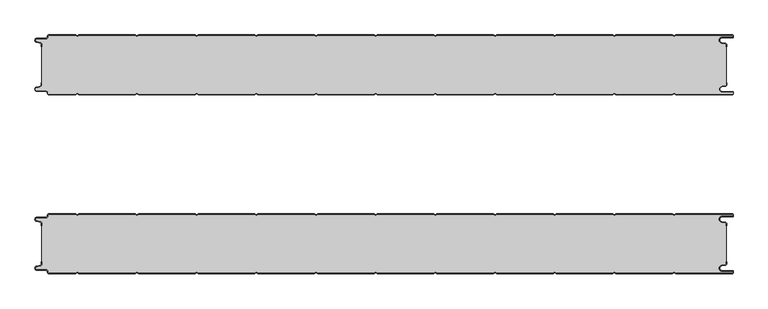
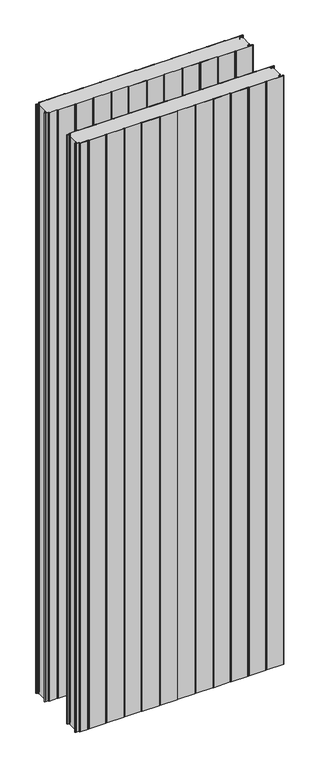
"""IFC4 building model written with IfcOpenShell, lengths in millimetres: plate geometry, Curtain-Panel_Doble-Panel-Acústico_Perfil-frigorífico-PM1 : ACH_Doble-Panel-Acústico_PM1_100-200-100."""

from ifc_helpers import new_model, si_unit, point, frame_2d, origin, origin_with_axes, place, context, project, spatial, polyline, circle_curve, trimmed, segment, composite_curve, outline, extrude, source, transform, mapped, element, save


def plate_c1fa482e(model_context):
    return source(origin(), model_context, "Body", "SweptSolid", [
        extrude(outline(composite_curve([segment(trimmed(circle_curve(frame_2d((-577.0, -315.878557)), 2.0), [point((-575.0, -315.878557))], [point((-576.5500978, -313.9298169))], True, "CARTESIAN"), True, "CONTINUOUS"), segment(polyline([(-576.5500978, -313.9298169), (-582.7098239, -312.507732)]), True, "CONTINUOUS"), segment(trimmed(circle_curve(frame_2d((-581.9, -309.0)), 3.6), [point((-582.7098239, -312.507732))], [point((-581.9, -305.4))], False, "CARTESIAN"), True, "CONTINUOUS"), segment(polyline([(-581.9, -305.4), (-566.4, -305.4)]), True, "CONTINUOUS"), segment(trimmed(circle_curve(frame_2d((-566.4, -303.4)), 2.0), [point((-566.4, -305.4))], [point((-564.4, -303.4))], True, "CARTESIAN"), True, "CONTINUOUS"), segment(polyline([(-564.4, -303.4), (-564.4, -302.0)]), True, "CONTINUOUS"), segment(trimmed(circle_curve(frame_2d((-562.4, -302.0)), 2.0), [point((-564.4, -302.0))], [point((-562.4, -300.0))], False, "CARTESIAN"), True, "CONTINUOUS"), segment(polyline([(-562.4, -300.0), (-517.0999995, -300.0), (-514.4, -301.5588455), (-511.7000005, -300.0), (-417.0999995, -300.0), (-414.4, -301.5588455), (-411.7000005, -300.0), (-317.0999995, -300.0), (-314.4, -301.5588455), (-311.7000005, -300.0), (-217.0999995, -300.0), (-214.4, -301.5588455), (-211.7000005, -300.0), (-117.0999995, -300.0), (-114.4, -301.5588455), (-111.7000005, -300.0), (-17.0999995, -300.0), (-14.4, -301.5588455), (-11.7000005, -300.0), (82.9000005, -300.0), (85.6, -301.5588455), (88.2999995, -300.0), (182.9000005, -300.0), (185.6, -301.5588455), (188.2999995, -300.0), (282.9000005, -300.0), (285.6, -301.5588455), (288.2999995, -300.0), (382.9000005, -300.0), (385.6, -301.5588455), (388.2999995, -300.0), (482.9000005, -300.0), (485.6, -301.5588455), (488.2999995, -300.0), (583.1, -300.0)]), True, "CONTINUOUS"), segment(trimmed(circle_curve(frame_2d((583.1, -302.5)), 2.5), [point((583.1, -300.0))], [point((584.6, -300.5))], False, "CARTESIAN"), True, "CONTINUOUS"), segment(polyline([(584.6, -300.5), (584.6, -301.7)]), True, "CONTINUOUS"), segment(trimmed(circle_curve(frame_2d((583.1, -302.5)), 1.7), [point((584.6, -301.7))], [point((583.1, -300.8))], True, "CARTESIAN"), True, "CONTINUOUS"), segment(polyline([(583.1, -300.8), (488.5143588, -300.8), (485.6, -302.482606), (482.6856412, -300.8), (388.5143588, -300.8), (385.6, -302.482606), (382.6856412, -300.8), (288.5143588, -300.8), (285.6, -302.482606), (282.6856412, -300.8), (188.5143588, -300.8), (185.6, -302.482606), (182.6856412, -300.8), (88.5143588, -300.8), (85.6, -302.482606), (82.6856412, -300.8), (-11.4856412, -300.8), (-14.4, -302.482606), (-17.3143588, -300.8), (-111.4856412, -300.8), (-114.4, -302.482606), (-117.3143588, -300.8), (-211.4856412, -300.8), (-214.4, -302.482606), (-217.3143588, -300.8), (-311.4856412, -300.8), (-314.4, -302.482606), (-317.3143588, -300.8), (-411.4856412, -300.8), (-414.4, -302.482606), (-417.3143588, -300.8), (-511.4856412, -300.8), (-514.4, -302.482606), (-517.3143588, -300.8), (-562.4, -300.8)]), True, "CONTINUOUS"), segment(trimmed(circle_curve(frame_2d((-562.4, -302.0)), 1.2), [point((-562.4, -300.8))], [point((-563.6, -302.0))], True, "CARTESIAN"), True, "CONTINUOUS"), segment(polyline([(-563.6, -302.0), (-563.6, -303.4)]), True, "CONTINUOUS"), segment(trimmed(circle_curve(frame_2d((-566.4, -303.4)), 2.8), [point((-563.6, -303.4))], [point((-566.4, -306.2))], False, "CARTESIAN"), True, "CONTINUOUS"), segment(polyline([(-566.4, -306.2), (-581.9, -306.2)]), True, "CONTINUOUS"), segment(trimmed(circle_curve(frame_2d((-581.9, -309.0)), 2.8), [point((-581.9, -306.2))], [point((-582.529863, -311.7282362))], True, "CARTESIAN"), True, "CONTINUOUS"), segment(polyline([(-582.529863, -311.7282362), (-576.370137, -313.150321)]), True, "CONTINUOUS"), segment(trimmed(circle_curve(frame_2d((-577.0, -315.878557)), 2.8), [point((-576.370137, -313.150321))], [point((-574.2, -315.878557))], False, "CARTESIAN"), True, "CONTINUOUS"), segment(polyline([(-574.2, -315.878557), (-574.2, -320.0), (-575.0, -320.0), (-575.0, -315.878557)]), True, "CONTINUOUS")], self_intersect=False)), origin_with_axes(), (0.0, 0.0, 1.0), 3500.0),
        extrude(outline(composite_curve([segment(polyline([(583.1, -305.0), (566.1, -305.0)]), True, "CONTINUOUS"), segment(trimmed(circle_curve(frame_2d((566.1, -309.0)), 4.0), [point((566.1, -305.0))], [point((565.405407, -312.939231))], True, "CARTESIAN"), True, "CONTINUOUS"), segment(polyline([(565.405407, -312.939231), (571.8514855, -314.0758491)]), True, "CONTINUOUS"), segment(trimmed(circle_curve(frame_2d((571.4, -316.6363492)), 2.6), [point((571.8514855, -314.0758491))], [point((574.0, -316.6363492))], False, "CARTESIAN"), True, "CONTINUOUS"), segment(polyline([(574.0, -316.6363492), (574.0, -320.0), (573.2, -320.0), (573.2, -316.6363492)]), True, "CONTINUOUS"), segment(trimmed(circle_curve(frame_2d((571.4, -316.6363492)), 1.8), [point((573.2, -316.6363492))], [point((571.7125669, -314.8636953))], True, "CARTESIAN"), True, "CONTINUOUS"), segment(polyline([(571.7125669, -314.8636953), (565.2664884, -313.7270772)]), True, "CONTINUOUS"), segment(trimmed(circle_curve(frame_2d((566.1, -309.0)), 4.8), [point((565.2664884, -313.7270772))], [point((566.1, -304.2))], False, "CARTESIAN"), True, "CONTINUOUS"), segment(polyline([(566.1, -304.2), (583.1, -304.2)]), True, "CONTINUOUS"), segment(trimmed(circle_curve(frame_2d((583.1, -302.5)), 1.7), [point((583.1, -304.2))], [point((584.6, -303.3))], True, "CARTESIAN"), True, "CONTINUOUS"), segment(polyline([(584.6, -303.3), (584.6, -304.5)]), True, "CONTINUOUS"), segment(trimmed(circle_curve(frame_2d((583.1, -302.5)), 2.5), [point((584.6, -304.5))], [point((583.1, -305.0))], False, "CARTESIAN"), True, "CONTINUOUS")], self_intersect=False)), origin_with_axes(), (0.0, 0.0, 1.0), 3500.0),
        extrude(outline(composite_curve([segment(polyline([(-575.0, -384.121443), (-575.0, -380.0), (-574.2, -380.0), (-574.2, -384.121443)]), True, "CONTINUOUS"), segment(trimmed(circle_curve(frame_2d((-577.0, -384.121443)), 2.8), [point((-574.2, -384.121443))], [point((-576.370137, -386.8496792))], False, "CARTESIAN"), True, "CONTINUOUS"), segment(polyline([(-576.370137, -386.8496792), (-582.529863, -388.271764)]), True, "CONTINUOUS"), segment(trimmed(circle_curve(frame_2d((-581.9, -391.0)), 2.8), [point((-582.529863, -388.271764))], [point((-581.9, -393.8))], True, "CARTESIAN"), True, "CONTINUOUS"), segment(polyline([(-581.9, -393.8), (-566.4, -393.8)]), True, "CONTINUOUS"), segment(trimmed(circle_curve(frame_2d((-566.4, -396.6)), 2.8), [point((-566.4, -393.8))], [point((-563.6, -396.6))], False, "CARTESIAN"), True, "CONTINUOUS"), segment(polyline([(-563.6, -396.6), (-563.6, -398.0)]), True, "CONTINUOUS"), segment(trimmed(circle_curve(frame_2d((-562.4, -398.0)), 1.2), [point((-563.6, -398.0))], [point((-562.4, -399.2))], True, "CARTESIAN"), True, "CONTINUOUS"), segment(polyline([(-562.4, -399.2), (-517.3143588, -399.2), (-514.4, -397.517394), (-511.4856412, -399.2), (-417.3143588, -399.2), (-414.4, -397.517394), (-411.4856412, -399.2), (-317.3143588, -399.2), (-314.4, -397.517394), (-311.4856412, -399.2), (-217.3143588, -399.2), (-214.4, -397.517394), (-211.4856412, -399.2), (-117.3143588, -399.2), (-114.4, -397.517394), (-111.4856412, -399.2), (-17.3143588, -399.2), (-14.4, -397.517394), (-11.4856412, -399.2), (82.6856412, -399.2), (85.6, -397.517394), (88.5143588, -399.2), (182.6856412, -399.2), (185.6, -397.517394), (188.5143588, -399.2), (282.6856412, -399.2), (285.6, -397.517394), (288.5143588, -399.2), (382.6856412, -399.2), (385.6, -397.517394), (388.5143588, -399.2), (482.6856412, -399.2), (485.6, -397.517394), (488.5143588, -399.2), (583.1, -399.2)]), True, "CONTINUOUS"), segment(trimmed(circle_curve(frame_2d((583.1, -397.5)), 1.7), [point((583.1, -399.2))], [point((584.6, -398.3))], True, "CARTESIAN"), True, "CONTINUOUS"), segment(polyline([(584.6, -398.3), (584.6, -399.5)]), True, "CONTINUOUS"), segment(trimmed(circle_curve(frame_2d((583.1, -397.5)), 2.5), [point((584.6, -399.5))], [point((583.1, -400.0))], False, "CARTESIAN"), True, "CONTINUOUS"), segment(polyline([(583.1, -400.0), (488.2999995, -400.0), (485.6, -398.4411545), (482.9000005, -400.0), (388.2999995, -400.0), (385.6, -398.4411545), (382.9000005, -400.0), (288.2999995, -400.0), (285.6, -398.4411545), (282.9000005, -400.0), (188.2999995, -400.0), (185.6, -398.4411545), (182.9000005, -400.0), (88.2999995, -400.0), (85.6, -398.4411545), (82.9000005, -400.0), (-11.7000005, -400.0), (-14.4, -398.4411545), (-17.0999995, -400.0), (-111.7000005, -400.0), (-114.4, -398.4411545), (-117.0999995, -400.0), (-211.7000005, -400.0), (-214.4, -398.4411545), (-217.0999995, -400.0), (-311.7000005, -400.0), (-314.4, -398.4411545), (-317.0999995, -400.0), (-411.7000005, -400.0), (-414.4, -398.4411545), (-417.0999995, -400.0), (-511.7000005, -400.0), (-514.4, -398.4411545), (-517.0999995, -400.0), (-562.4, -400.0)]), True, "CONTINUOUS"), segment(trimmed(circle_curve(frame_2d((-562.4, -398.0)), 2.0), [point((-562.4, -400.0))], [point((-564.4, -398.0))], False, "CARTESIAN"), True, "CONTINUOUS"), segment(polyline([(-564.4, -398.0), (-564.4, -396.6)]), True, "CONTINUOUS"), segment(trimmed(circle_curve(frame_2d((-566.4, -396.6)), 2.0), [point((-564.4, -396.6))], [point((-566.4, -394.6))], True, "CARTESIAN"), True, "CONTINUOUS"), segment(polyline([(-566.4, -394.6), (-581.9, -394.6)]), True, "CONTINUOUS"), segment(trimmed(circle_curve(frame_2d((-581.9, -391.0)), 3.6), [point((-581.9, -394.6))], [point((-582.7098239, -387.4922678))], False, "CARTESIAN"), True, "CONTINUOUS"), segment(polyline([(-582.7098239, -387.4922678), (-576.5500979, -386.070183)]), True, "CONTINUOUS"), segment(trimmed(circle_curve(frame_2d((-577.0, -384.121443)), 2.0), [point((-576.5500979, -386.070183))], [point((-575.0, -384.121443))], True, "CARTESIAN"), True, "CONTINUOUS")], self_intersect=False)), origin_with_axes(), (0.0, 0.0, 1.0), 3500.0),
        extrude(outline(composite_curve([segment(polyline([(583.1, -395.8), (566.1, -395.8)]), True, "CONTINUOUS"), segment(trimmed(circle_curve(frame_2d((566.1, -391.0)), 4.8), [point((566.1, -395.8))], [point((565.2664884, -386.2729229))], False, "CARTESIAN"), True, "CONTINUOUS"), segment(polyline([(565.2664884, -386.2729229), (571.7125669, -385.1363047)]), True, "CONTINUOUS"), segment(trimmed(circle_curve(frame_2d((571.4, -383.3636508)), 1.8), [point((571.7125669, -385.1363047))], [point((573.2, -383.3636508))], True, "CARTESIAN"), True, "CONTINUOUS"), segment(polyline([(573.2, -383.3636508), (573.2, -380.0), (574.0, -380.0), (574.0, -383.3636508)]), True, "CONTINUOUS"), segment(trimmed(circle_curve(frame_2d((571.4, -383.3636508)), 2.6), [point((574.0, -383.3636508))], [point((571.8514855, -385.9241509))], False, "CARTESIAN"), True, "CONTINUOUS"), segment(polyline([(571.8514855, -385.9241509), (565.405407, -387.060769)]), True, "CONTINUOUS"), segment(trimmed(circle_curve(frame_2d((566.1, -391.0)), 4.0), [point((565.405407, -387.060769))], [point((566.1, -395.0))], True, "CARTESIAN"), True, "CONTINUOUS"), segment(polyline([(566.1, -395.0), (583.1, -395.0)]), True, "CONTINUOUS"), segment(trimmed(circle_curve(frame_2d((583.1, -397.5)), 2.5), [point((583.1, -395.0))], [point((584.6, -395.5))], False, "CARTESIAN"), True, "CONTINUOUS"), segment(polyline([(584.6, -395.5), (584.6, -396.7)]), True, "CONTINUOUS"), segment(trimmed(circle_curve(frame_2d((583.1, -397.5)), 1.7), [point((584.6, -396.7))], [point((583.1, -395.8))], True, "CARTESIAN"), True, "CONTINUOUS")], self_intersect=False)), origin_with_axes(), (0.0, 0.0, 1.0), 3500.0),
        extrude(outline(composite_curve([segment(polyline([(-574.2, -384.1214426), (-574.2, -315.8785573)]), True, "CONTINUOUS"), segment(trimmed(circle_curve(frame_2d((-577.0, -315.8785573)), 2.8), [point((-574.2, -315.8785573))], [point((-576.370137, -313.1503212))], True, "CARTESIAN"), True, "CONTINUOUS"), segment(polyline([(-576.370137, -313.1503212), (-582.5298631, -311.7282362)]), True, "CONTINUOUS"), segment(trimmed(circle_curve(frame_2d((-581.9, -309.0)), 2.8), [point((-582.5298631, -311.7282362))], [point((-581.9, -306.2))], False, "CARTESIAN"), True, "CONTINUOUS"), segment(polyline([(-581.9, -306.2), (-566.4000001, -306.2)]), True, "CONTINUOUS"), segment(trimmed(circle_curve(frame_2d((-566.4000001, -303.4)), 2.8), [point((-566.4000001, -306.2))], [point((-563.6000001, -303.4))], True, "CARTESIAN"), True, "CONTINUOUS"), segment(polyline([(-563.6000001, -303.4), (-563.6000001, -302.0)]), True, "CONTINUOUS"), segment(trimmed(circle_curve(frame_2d((-562.4000001, -302.0)), 1.2), [point((-563.6000001, -302.0))], [point((-562.4000001, -300.8))], False, "CARTESIAN"), True, "CONTINUOUS"), segment(polyline([(-562.4000001, -300.8), (-517.3143589, -300.8), (-514.4000001, -302.482606), (-511.4856412, -300.8), (-417.3143589, -300.8), (-414.4000001, -302.482606), (-411.4856412, -300.8), (-317.3143589, -300.8), (-314.4000001, -302.482606), (-311.4856412, -300.8), (-217.3143589, -300.8), (-214.4000001, -302.482606), (-211.4856412, -300.8), (-117.3143589, -300.8), (-114.4000001, -302.482606), (-111.4856412, -300.8), (-17.3143589, -300.8), (-14.4000001, -302.482606), (-11.4856412, -300.8), (82.6856411, -300.8), (85.5999999, -302.482606), (88.5143588, -300.8), (182.6856411, -300.8), (185.5999999, -302.482606), (188.5143588, -300.8), (282.6856411, -300.8), (285.5999999, -302.482606), (288.5143588, -300.8), (382.6856411, -300.8), (385.5999999, -302.482606), (388.5143588, -300.8), (482.6856411, -300.8), (485.6, -302.482606), (488.5143588, -300.8), (583.1, -300.8)]), True, "CONTINUOUS"), segment(trimmed(circle_curve(frame_2d((583.1, -302.5)), 1.7), [point((583.1, -300.8))], [point((584.6, -301.7000001))], False, "CARTESIAN"), True, "CONTINUOUS"), segment(polyline([(584.6, -301.7000001), (584.6, -303.2999999)]), True, "CONTINUOUS"), segment(trimmed(circle_curve(frame_2d((583.1, -302.5)), 1.7), [point((584.6, -303.2999999))], [point((583.1, -304.2))], False, "CARTESIAN"), True, "CONTINUOUS"), segment(polyline([(583.1, -304.2), (566.1, -304.2)]), True, "CONTINUOUS"), segment(trimmed(circle_curve(frame_2d((566.1, -309.0)), 4.8), [point((566.1, -304.2))], [point((565.2664883, -313.7270771))], True, "CARTESIAN"), True, "CONTINUOUS"), segment(polyline([(565.2664883, -313.7270771), (571.7125668, -314.8636953)]), True, "CONTINUOUS"), segment(trimmed(circle_curve(frame_2d((571.4, -316.6363492)), 1.8), [point((571.7125668, -314.8636953))], [point((573.2, -316.6363492))], False, "CARTESIAN"), True, "CONTINUOUS"), segment(polyline([(573.2, -316.6363492), (573.2, -383.3636508)]), True, "CONTINUOUS"), segment(trimmed(circle_curve(frame_2d((571.4, -383.3636508)), 1.8), [point((573.2, -383.3636508))], [point((571.7125668, -385.1363047))], False, "CARTESIAN"), True, "CONTINUOUS"), segment(polyline([(571.7125668, -385.1363047), (565.2664883, -386.2729229)]), True, "CONTINUOUS"), segment(trimmed(circle_curve(frame_2d((566.1, -391.0)), 4.8), [point((565.2664883, -386.2729229))], [point((566.1, -395.8))], True, "CARTESIAN"), True, "CONTINUOUS"), segment(polyline([(566.1, -395.8), (583.1, -395.8)]), True, "CONTINUOUS"), segment(trimmed(circle_curve(frame_2d((583.1, -397.5)), 1.7), [point((583.1, -395.8))], [point((584.6, -396.7000001))], False, "CARTESIAN"), True, "CONTINUOUS"), segment(polyline([(584.6, -396.7000001), (584.6, -398.2999999)]), True, "CONTINUOUS"), segment(trimmed(circle_curve(frame_2d((583.1, -397.5)), 1.7), [point((584.6, -398.2999999))], [point((583.1, -399.2))], False, "CARTESIAN"), True, "CONTINUOUS"), segment(polyline([(583.1, -399.2), (488.5143588, -399.2), (485.6, -397.517394), (482.6856411, -399.2), (388.5143588, -399.2), (385.5999999, -397.517394), (382.6856411, -399.2), (288.5143588, -399.2), (285.5999999, -397.517394), (282.6856411, -399.2), (188.5143588, -399.2), (185.5999999, -397.517394), (182.6856411, -399.2), (88.5143588, -399.2), (85.5999999, -397.517394), (82.6856411, -399.2), (-11.4856412, -399.2), (-14.4000001, -397.517394), (-17.3143589, -399.2), (-111.4856412, -399.2), (-114.4000001, -397.517394), (-117.3143589, -399.2), (-211.4856412, -399.2), (-214.4000001, -397.517394), (-217.3143589, -399.2), (-311.4856412, -399.2), (-314.4000001, -397.517394), (-317.3143589, -399.2), (-411.4856412, -399.2), (-414.4000001, -397.517394), (-417.3143589, -399.2), (-511.4856412, -399.2), (-514.4000001, -397.517394), (-517.3143589, -399.2), (-562.4000001, -399.2)]), True, "CONTINUOUS"), segment(trimmed(circle_curve(frame_2d((-562.4000001, -398.0)), 1.2), [point((-562.4000001, -399.2))], [point((-563.6000001, -398.0))], False, "CARTESIAN"), True, "CONTINUOUS"), segment(polyline([(-563.6000001, -398.0), (-563.6000001, -396.6)]), True, "CONTINUOUS"), segment(trimmed(circle_curve(frame_2d((-566.4000001, -396.6)), 2.8), [point((-563.6000001, -396.6))], [point((-566.4000001, -393.8))], True, "CARTESIAN"), True, "CONTINUOUS"), segment(polyline([(-566.4000001, -393.8), (-581.9, -393.8)]), True, "CONTINUOUS"), segment(trimmed(circle_curve(frame_2d((-581.9, -391.0)), 2.8), [point((-581.9, -393.8))], [point((-582.5298631, -388.2717638))], False, "CARTESIAN"), True, "CONTINUOUS"), segment(polyline([(-582.5298631, -388.2717638), (-576.370137, -386.8496788)]), True, "CONTINUOUS"), segment(trimmed(circle_curve(frame_2d((-577.0, -384.1214426)), 2.8), [point((-576.370137, -386.8496788))], [point((-574.2, -384.1214426))], True, "CARTESIAN"), True, "CONTINUOUS")], self_intersect=False)), origin_with_axes(), (0.0, 0.0, 1.0), 3500.0),
        extrude(outline(composite_curve([segment(trimmed(circle_curve(frame_2d((-577.0, -15.878557)), 2.0), [point((-575.0, -15.878557))], [point((-576.5500978, -13.9298169))], True, "CARTESIAN"), True, "CONTINUOUS"), segment(polyline([(-576.5500978, -13.9298169), (-582.7098239, -12.507732)]), True, "CONTINUOUS"), segment(trimmed(circle_curve(frame_2d((-581.9, -9.0)), 3.6), [point((-582.7098239, -12.507732))], [point((-581.9, -5.4))], False, "CARTESIAN"), True, "CONTINUOUS"), segment(polyline([(-581.9, -5.4), (-566.4, -5.4)]), True, "CONTINUOUS"), segment(trimmed(circle_curve(frame_2d((-566.4, -3.4)), 2.0), [point((-566.4, -5.4))], [point((-564.4, -3.4))], True, "CARTESIAN"), True, "CONTINUOUS"), segment(polyline([(-564.4, -3.4), (-564.4, -2.0)]), True, "CONTINUOUS"), segment(trimmed(circle_curve(frame_2d((-562.4, -2.0)), 2.0), [point((-564.4, -2.0))], [point((-562.4, 0.0))], False, "CARTESIAN"), True, "CONTINUOUS"), segment(polyline([(-562.4, 0.0), (-517.0999995, 0.0), (-514.4, -1.5588455), (-511.7000005, 0.0), (-417.0999995, 0.0), (-414.4, -1.5588455), (-411.7000005, 0.0), (-317.0999995, 0.0), (-314.4, -1.5588455), (-311.7000005, 0.0), (-217.0999995, 0.0), (-214.4, -1.5588455), (-211.7000005, 0.0), (-117.0999995, 0.0), (-114.4, -1.5588455), (-111.7000005, 0.0), (-17.0999995, 0.0), (-14.4, -1.5588455), (-11.7000005, 0.0), (82.9000005, 0.0), (85.6, -1.5588455), (88.2999995, 0.0), (182.9000005, 0.0), (185.6, -1.5588455), (188.2999995, 0.0), (282.9000005, 0.0), (285.6, -1.5588455), (288.2999995, 0.0), (382.9000005, 0.0), (385.6, -1.5588455), (388.2999995, 0.0), (482.9000005, 0.0), (485.6, -1.5588455), (488.2999995, 0.0), (583.1, 0.0)]), True, "CONTINUOUS"), segment(trimmed(circle_curve(frame_2d((583.1, -2.5)), 2.5), [point((583.1, 0.0))], [point((584.6, -0.5))], False, "CARTESIAN"), True, "CONTINUOUS"), segment(polyline([(584.6, -0.5), (584.6, -1.7)]), True, "CONTINUOUS"), segment(trimmed(circle_curve(frame_2d((583.1, -2.5)), 1.7), [point((584.6, -1.7))], [point((583.1, -0.8))], True, "CARTESIAN"), True, "CONTINUOUS"), segment(polyline([(583.1, -0.8), (488.5143588, -0.8), (485.6, -2.482606), (482.6856412, -0.8), (388.5143588, -0.8), (385.6, -2.482606), (382.6856412, -0.8), (288.5143588, -0.8), (285.6, -2.482606), (282.6856412, -0.8), (188.5143588, -0.8), (185.6, -2.482606), (182.6856412, -0.8), (88.5143588, -0.8), (85.6, -2.482606), (82.6856412, -0.8), (-11.4856412, -0.8), (-14.4, -2.482606), (-17.3143588, -0.8), (-111.4856412, -0.8), (-114.4, -2.482606), (-117.3143588, -0.8), (-211.4856412, -0.8), (-214.4, -2.482606), (-217.3143588, -0.8), (-311.4856412, -0.8), (-314.4, -2.482606), (-317.3143588, -0.8), (-411.4856412, -0.8), (-414.4, -2.482606), (-417.3143588, -0.8), (-511.4856412, -0.8), (-514.4, -2.482606), (-517.3143588, -0.8), (-562.4, -0.8)]), True, "CONTINUOUS"), segment(trimmed(circle_curve(frame_2d((-562.4, -2.0)), 1.2), [point((-562.4, -0.8))], [point((-563.6, -2.0))], True, "CARTESIAN"), True, "CONTINUOUS"), segment(polyline([(-563.6, -2.0), (-563.6, -3.4)]), True, "CONTINUOUS"), segment(trimmed(circle_curve(frame_2d((-566.4, -3.4)), 2.8), [point((-563.6, -3.4))], [point((-566.4, -6.2))], False, "CARTESIAN"), True, "CONTINUOUS"), segment(polyline([(-566.4, -6.2), (-581.9, -6.2)]), True, "CONTINUOUS"), segment(trimmed(circle_curve(frame_2d((-581.9, -9.0)), 2.8), [point((-581.9, -6.2))], [point((-582.529863, -11.7282362))], True, "CARTESIAN"), True, "CONTINUOUS"), segment(polyline([(-582.529863, -11.7282362), (-576.370137, -13.150321)]), True, "CONTINUOUS"), segment(trimmed(circle_curve(frame_2d((-577.0, -15.878557)), 2.8), [point((-576.370137, -13.150321))], [point((-574.2, -15.878557))], False, "CARTESIAN"), True, "CONTINUOUS"), segment(polyline([(-574.2, -15.878557), (-574.2, -20.0), (-575.0, -20.0), (-575.0, -15.878557)]), True, "CONTINUOUS")], self_intersect=False)), origin_with_axes(), (0.0, 0.0, 1.0), 3500.0),
        extrude(outline(composite_curve([segment(polyline([(583.1, -5.0), (566.1, -5.0)]), True, "CONTINUOUS"), segment(trimmed(circle_curve(frame_2d((566.1, -9.0)), 4.0), [point((566.1, -5.0))], [point((565.405407, -12.939231))], True, "CARTESIAN"), True, "CONTINUOUS"), segment(polyline([(565.405407, -12.939231), (571.8514855, -14.0758491)]), True, "CONTINUOUS"), segment(trimmed(circle_curve(frame_2d((571.4, -16.6363492)), 2.6), [point((571.8514855, -14.0758491))], [point((574.0, -16.6363492))], False, "CARTESIAN"), True, "CONTINUOUS"), segment(polyline([(574.0, -16.6363492), (574.0, -20.0), (573.2, -20.0), (573.2, -16.6363492)]), True, "CONTINUOUS"), segment(trimmed(circle_curve(frame_2d((571.4, -16.6363492)), 1.8), [point((573.2, -16.6363492))], [point((571.7125669, -14.8636953))], True, "CARTESIAN"), True, "CONTINUOUS"), segment(polyline([(571.7125669, -14.8636953), (565.2664884, -13.7270772)]), True, "CONTINUOUS"), segment(trimmed(circle_curve(frame_2d((566.1, -9.0)), 4.8), [point((565.2664884, -13.7270772))], [point((566.1, -4.2))], False, "CARTESIAN"), True, "CONTINUOUS"), segment(polyline([(566.1, -4.2), (583.1, -4.2)]), True, "CONTINUOUS"), segment(trimmed(circle_curve(frame_2d((583.1, -2.5)), 1.7), [point((583.1, -4.2))], [point((584.6, -3.3))], True, "CARTESIAN"), True, "CONTINUOUS"), segment(polyline([(584.6, -3.3), (584.6, -4.5)]), True, "CONTINUOUS"), segment(trimmed(circle_curve(frame_2d((583.1, -2.5)), 2.5), [point((584.6, -4.5))], [point((583.1, -5.0))], False, "CARTESIAN"), True, "CONTINUOUS")], self_intersect=False)), origin_with_axes(), (0.0, 0.0, 1.0), 3500.0),
        extrude(outline(composite_curve([segment(polyline([(-574.2, -84.1214426), (-574.2, -15.8785573)]), True, "CONTINUOUS"), segment(trimmed(circle_curve(frame_2d((-577.0, -15.8785573)), 2.8), [point((-574.2, -15.8785573))], [point((-576.370137, -13.1503212))], True, "CARTESIAN"), True, "CONTINUOUS"), segment(polyline([(-576.370137, -13.1503212), (-582.5298631, -11.7282362)]), True, "CONTINUOUS"), segment(trimmed(circle_curve(frame_2d((-581.9, -9.0)), 2.8), [point((-582.5298631, -11.7282362))], [point((-581.9, -6.2))], False, "CARTESIAN"), True, "CONTINUOUS"), segment(polyline([(-581.9, -6.2), (-566.4000001, -6.2)]), True, "CONTINUOUS"), segment(trimmed(circle_curve(frame_2d((-566.4000001, -3.4)), 2.8), [point((-566.4000001, -6.2))], [point((-563.6000001, -3.4))], True, "CARTESIAN"), True, "CONTINUOUS"), segment(polyline([(-563.6000001, -3.4), (-563.6000001, -2.0)]), True, "CONTINUOUS"), segment(trimmed(circle_curve(frame_2d((-562.4000001, -2.0)), 1.2), [point((-563.6000001, -2.0))], [point((-562.4000001, -0.8))], False, "CARTESIAN"), True, "CONTINUOUS"), segment(polyline([(-562.4000001, -0.8), (-517.3143589, -0.8), (-514.4000001, -2.482606), (-511.4856412, -0.8), (-417.3143589, -0.8), (-414.4000001, -2.482606), (-411.4856412, -0.8), (-317.3143589, -0.8), (-314.4000001, -2.482606), (-311.4856412, -0.8), (-217.3143589, -0.8), (-214.4000001, -2.482606), (-211.4856412, -0.8), (-117.3143589, -0.8), (-114.4000001, -2.482606), (-111.4856412, -0.8), (-17.3143589, -0.8), (-14.4000001, -2.482606), (-11.4856412, -0.8), (82.6856411, -0.8), (85.5999999, -2.482606), (88.5143588, -0.8), (182.6856411, -0.8), (185.5999999, -2.482606), (188.5143588, -0.8), (282.6856411, -0.8), (285.5999999, -2.482606), (288.5143588, -0.8), (382.6856411, -0.8), (385.5999999, -2.482606), (388.5143588, -0.8), (482.6856411, -0.8), (485.6, -2.482606), (488.5143588, -0.8), (583.1, -0.8)]), True, "CONTINUOUS"), segment(trimmed(circle_curve(frame_2d((583.1, -2.5)), 1.7), [point((583.1, -0.8))], [point((584.6, -1.7000001))], False, "CARTESIAN"), True, "CONTINUOUS"), segment(polyline([(584.6, -1.7000001), (584.6, -3.2999999)]), True, "CONTINUOUS"), segment(trimmed(circle_curve(frame_2d((583.1, -2.5)), 1.7), [point((584.6, -3.2999999))], [point((583.1, -4.2))], False, "CARTESIAN"), True, "CONTINUOUS"), segment(polyline([(583.1, -4.2), (566.1, -4.2)]), True, "CONTINUOUS"), segment(trimmed(circle_curve(frame_2d((566.1, -9.0)), 4.8), [point((566.1, -4.2))], [point((565.2664883, -13.7270771))], True, "CARTESIAN"), True, "CONTINUOUS"), segment(polyline([(565.2664883, -13.7270771), (571.7125668, -14.8636953)]), True, "CONTINUOUS"), segment(trimmed(circle_curve(frame_2d((571.4, -16.6363492)), 1.8), [point((571.7125668, -14.8636953))], [point((573.2, -16.6363492))], False, "CARTESIAN"), True, "CONTINUOUS"), segment(polyline([(573.2, -16.6363492), (573.2, -83.3636508)]), True, "CONTINUOUS"), segment(trimmed(circle_curve(frame_2d((571.4, -83.3636508)), 1.8), [point((573.2, -83.3636508))], [point((571.7125668, -85.1363047))], False, "CARTESIAN"), True, "CONTINUOUS"), segment(polyline([(571.7125668, -85.1363047), (565.2664883, -86.2729229)]), True, "CONTINUOUS"), segment(trimmed(circle_curve(frame_2d((566.1, -91.0)), 4.8), [point((565.2664883, -86.2729229))], [point((566.1, -95.8))], True, "CARTESIAN"), True, "CONTINUOUS"), segment(polyline([(566.1, -95.8), (583.1, -95.8)]), True, "CONTINUOUS"), segment(trimmed(circle_curve(frame_2d((583.1, -97.5)), 1.7), [point((583.1, -95.8))], [point((584.6, -96.7000001))], False, "CARTESIAN"), True, "CONTINUOUS"), segment(polyline([(584.6, -96.7000001), (584.6, -98.2999999)]), True, "CONTINUOUS"), segment(trimmed(circle_curve(frame_2d((583.1, -97.5)), 1.7), [point((584.6, -98.2999999))], [point((583.1, -99.2))], False, "CARTESIAN"), True, "CONTINUOUS"), segment(polyline([(583.1, -99.2), (488.5143588, -99.2), (485.6, -97.517394), (482.6856411, -99.2), (388.5143588, -99.2), (385.5999999, -97.517394), (382.6856411, -99.2), (288.5143588, -99.2), (285.5999999, -97.517394), (282.6856411, -99.2), (188.5143588, -99.2), (185.5999999, -97.517394), (182.6856411, -99.2), (88.5143588, -99.2), (85.5999999, -97.517394), (82.6856411, -99.2), (-11.4856412, -99.2), (-14.4000001, -97.517394), (-17.3143589, -99.2), (-111.4856412, -99.2), (-114.4000001, -97.517394), (-117.3143589, -99.2), (-211.4856412, -99.2), (-214.4000001, -97.517394), (-217.3143589, -99.2), (-311.4856412, -99.2), (-314.4000001, -97.517394), (-317.3143589, -99.2), (-411.4856412, -99.2), (-414.4000001, -97.517394), (-417.3143589, -99.2), (-511.4856412, -99.2), (-514.4000001, -97.517394), (-517.3143589, -99.2), (-562.4000001, -99.2)]), True, "CONTINUOUS"), segment(trimmed(circle_curve(frame_2d((-562.4000001, -98.0)), 1.2), [point((-562.4000001, -99.2))], [point((-563.6000001, -98.0))], False, "CARTESIAN"), True, "CONTINUOUS"), segment(polyline([(-563.6000001, -98.0), (-563.6000001, -96.6)]), True, "CONTINUOUS"), segment(trimmed(circle_curve(frame_2d((-566.4000001, -96.6)), 2.8), [point((-563.6000001, -96.6))], [point((-566.4000001, -93.8))], True, "CARTESIAN"), True, "CONTINUOUS"), segment(polyline([(-566.4000001, -93.8), (-581.9, -93.8)]), True, "CONTINUOUS"), segment(trimmed(circle_curve(frame_2d((-581.9, -91.0)), 2.8), [point((-581.9, -93.8))], [point((-582.5298631, -88.2717638))], False, "CARTESIAN"), True, "CONTINUOUS"), segment(polyline([(-582.5298631, -88.2717638), (-576.370137, -86.8496788)]), True, "CONTINUOUS"), segment(trimmed(circle_curve(frame_2d((-577.0, -84.1214426)), 2.8), [point((-576.370137, -86.8496788))], [point((-574.2, -84.1214426))], True, "CARTESIAN"), True, "CONTINUOUS")], self_intersect=False)), origin_with_axes(), (0.0, 0.0, 1.0), 3500.0),
        extrude(outline(composite_curve([segment(polyline([(-575.0, -84.121443), (-575.0, -80.0), (-574.2, -80.0), (-574.2, -84.121443)]), True, "CONTINUOUS"), segment(trimmed(circle_curve(frame_2d((-577.0, -84.121443)), 2.8), [point((-574.2, -84.121443))], [point((-576.370137, -86.8496792))], False, "CARTESIAN"), True, "CONTINUOUS"), segment(polyline([(-576.370137, -86.8496792), (-582.529863, -88.271764)]), True, "CONTINUOUS"), segment(trimmed(circle_curve(frame_2d((-581.9, -91.0)), 2.8), [point((-582.529863, -88.271764))], [point((-581.9, -93.8))], True, "CARTESIAN"), True, "CONTINUOUS"), segment(polyline([(-581.9, -93.8), (-566.4, -93.8)]), True, "CONTINUOUS"), segment(trimmed(circle_curve(frame_2d((-566.4, -96.6)), 2.8), [point((-566.4, -93.8))], [point((-563.6, -96.6))], False, "CARTESIAN"), True, "CONTINUOUS"), segment(polyline([(-563.6, -96.6), (-563.6, -98.0)]), True, "CONTINUOUS"), segment(trimmed(circle_curve(frame_2d((-562.4, -98.0)), 1.2), [point((-563.6, -98.0))], [point((-562.4, -99.2))], True, "CARTESIAN"), True, "CONTINUOUS"), segment(polyline([(-562.4, -99.2), (-517.3143588, -99.2), (-514.4, -97.517394), (-511.4856412, -99.2), (-417.3143588, -99.2), (-414.4, -97.517394), (-411.4856412, -99.2), (-317.3143588, -99.2), (-314.4, -97.517394), (-311.4856412, -99.2), (-217.3143588, -99.2), (-214.4, -97.517394), (-211.4856412, -99.2), (-117.3143588, -99.2), (-114.4, -97.517394), (-111.4856412, -99.2), (-17.3143588, -99.2), (-14.4, -97.517394), (-11.4856412, -99.2), (82.6856412, -99.2), (85.6, -97.517394), (88.5143588, -99.2), (182.6856412, -99.2), (185.6, -97.517394), (188.5143588, -99.2), (282.6856412, -99.2), (285.6, -97.517394), (288.5143588, -99.2), (382.6856412, -99.2), (385.6, -97.517394), (388.5143588, -99.2), (482.6856412, -99.2), (485.6, -97.517394), (488.5143588, -99.2), (583.1, -99.2)]), True, "CONTINUOUS"), segment(trimmed(circle_curve(frame_2d((583.1, -97.5)), 1.7), [point((583.1, -99.2))], [point((584.6, -98.3))], True, "CARTESIAN"), True, "CONTINUOUS"), segment(polyline([(584.6, -98.3), (584.6, -99.5)]), True, "CONTINUOUS"), segment(trimmed(circle_curve(frame_2d((583.1, -97.5)), 2.5), [point((584.6, -99.5))], [point((583.1, -100.0))], False, "CARTESIAN"), True, "CONTINUOUS"), segment(polyline([(583.1, -100.0), (488.2999995, -100.0), (485.6, -98.4411545), (482.9000005, -100.0), (388.2999995, -100.0), (385.6, -98.4411545), (382.9000005, -100.0), (288.2999995, -100.0), (285.6, -98.4411545), (282.9000005, -100.0), (188.2999995, -100.0), (185.6, -98.4411545), (182.9000005, -100.0), (88.2999995, -100.0), (85.6, -98.4411545), (82.9000005, -100.0), (-11.7000005, -100.0), (-14.4, -98.4411545), (-17.0999995, -100.0), (-111.7000005, -100.0), (-114.4, -98.4411545), (-117.0999995, -100.0), (-211.7000005, -100.0), (-214.4, -98.4411545), (-217.0999995, -100.0), (-311.7000005, -100.0), (-314.4, -98.4411545), (-317.0999995, -100.0), (-411.7000005, -100.0), (-414.4, -98.4411545), (-417.0999995, -100.0), (-511.7000005, -100.0), (-514.4, -98.4411545), (-517.0999995, -100.0), (-562.4, -100.0)]), True, "CONTINUOUS"), segment(trimmed(circle_curve(frame_2d((-562.4, -98.0)), 2.0), [point((-562.4, -100.0))], [point((-564.4, -98.0))], False, "CARTESIAN"), True, "CONTINUOUS"), segment(polyline([(-564.4, -98.0), (-564.4, -96.6)]), True, "CONTINUOUS"), segment(trimmed(circle_curve(frame_2d((-566.4, -96.6)), 2.0), [point((-564.4, -96.6))], [point((-566.4, -94.6))], True, "CARTESIAN"), True, "CONTINUOUS"), segment(polyline([(-566.4, -94.6), (-581.9, -94.6)]), True, "CONTINUOUS"), segment(trimmed(circle_curve(frame_2d((-581.9, -91.0)), 3.6), [point((-581.9, -94.6))], [point((-582.7098239, -87.4922678))], False, "CARTESIAN"), True, "CONTINUOUS"), segment(polyline([(-582.7098239, -87.4922678), (-576.5500979, -86.070183)]), True, "CONTINUOUS"), segment(trimmed(circle_curve(frame_2d((-577.0, -84.121443)), 2.0), [point((-576.5500979, -86.070183))], [point((-575.0, -84.121443))], True, "CARTESIAN"), True, "CONTINUOUS")], self_intersect=False)), origin_with_axes(), (0.0, 0.0, 1.0), 3500.0),
        extrude(outline(composite_curve([segment(polyline([(583.1, -95.8), (566.1, -95.8)]), True, "CONTINUOUS"), segment(trimmed(circle_curve(frame_2d((566.1, -91.0)), 4.8), [point((566.1, -95.8))], [point((565.2664884, -86.2729229))], False, "CARTESIAN"), True, "CONTINUOUS"), segment(polyline([(565.2664884, -86.2729229), (571.7125669, -85.1363047)]), True, "CONTINUOUS"), segment(trimmed(circle_curve(frame_2d((571.4, -83.3636508)), 1.8), [point((571.7125669, -85.1363047))], [point((573.2, -83.3636508))], True, "CARTESIAN"), True, "CONTINUOUS"), segment(polyline([(573.2, -83.3636508), (573.2, -80.0), (574.0, -80.0), (574.0, -83.3636508)]), True, "CONTINUOUS"), segment(trimmed(circle_curve(frame_2d((571.4, -83.3636508)), 2.6), [point((574.0, -83.3636508))], [point((571.8514855, -85.9241509))], False, "CARTESIAN"), True, "CONTINUOUS"), segment(polyline([(571.8514855, -85.9241509), (565.405407, -87.060769)]), True, "CONTINUOUS"), segment(trimmed(circle_curve(frame_2d((566.1, -91.0)), 4.0), [point((565.405407, -87.060769))], [point((566.1, -95.0))], True, "CARTESIAN"), True, "CONTINUOUS"), segment(polyline([(566.1, -95.0), (583.1, -95.0)]), True, "CONTINUOUS"), segment(trimmed(circle_curve(frame_2d((583.1, -97.5)), 2.5), [point((583.1, -95.0))], [point((584.6, -95.5))], False, "CARTESIAN"), True, "CONTINUOUS"), segment(polyline([(584.6, -95.5), (584.6, -96.7)]), True, "CONTINUOUS"), segment(trimmed(circle_curve(frame_2d((583.1, -97.5)), 1.7), [point((584.6, -96.7))], [point((583.1, -95.8))], True, "CARTESIAN"), True, "CONTINUOUS")], self_intersect=False)), origin_with_axes(), (0.0, 0.0, 1.0), 3500.0),
    ])


if __name__ == "__main__":
    model = new_model("IFC4")
    model_context = context("Model", 3, world=origin())
    ifc_project = project(units=[si_unit("LENGTHUNIT", "METRE", prefix="MILLI")], contexts=[model_context])
    site = spatial("IfcSite", under=ifc_project)
    building = spatial("IfcBuilding", under=site)
    placement = place(None, origin())
    plate_shape = plate_c1fa482e(model_context)
    element("IfcPlate", 1, ObjectType="Curtain-Panel_Doble-Panel-Acústico_Perfil-frigorífico-PM1 : ACH_Doble-Panel-Acústico_PM1_100-200-100", at=placement, inside=building, context=model_context, shape_type="MappedRepresentation", body=[
        mapped(plate_shape, transform((0.0, 0.0, 0.0), x_axis=(1.0, 0.0, 0.0), y_axis=(0.0, 1.0, 0.0), z_axis=(0.0, 0.0, 1.0))),
    ])
    save(model, "model.ifc")
